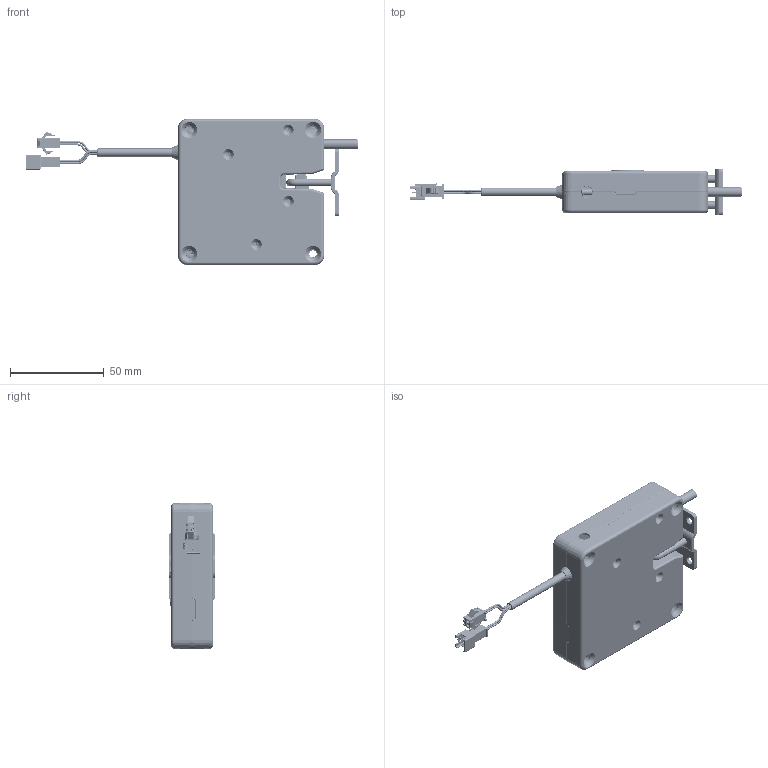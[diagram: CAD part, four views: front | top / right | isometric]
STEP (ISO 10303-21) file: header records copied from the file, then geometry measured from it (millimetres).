
FILE_DESCRIPTION((''),'2;1');
FILE_NAME('SM-8080X-006_ASM','2024-05-06T14:05:43',('PRIME'),(''),'CREO PARAMETRIC BY PTC INC, 2023073','CREO PARAMETRIC BY PTC INC, 2023073','');
FILE_SCHEMA(('CONFIG_CONTROL_DESIGN'));
Products named in the file (10): SM-8080X-006-00; SM-8080X-006-0200; _SM-8080X-00600; _SM-8080X-0060002; SM-8080X-006-000; _SM-8080X-0060004; 1-SM-8080X-006-00200; 8080X-00; SM-8080X-006_ASM
Assembly tree (9 placements, depth 2):
  SM-8080X-006_ASM
    SM-8080X-006-00
    SM-8080X-006-0200
    _SM-8080X-00600
    _SM-8080X-0060002
    SM-8080X-006-000
    _SM-8080X-0060004
    1-SM-8080X-006-00200
    8080X-00
    8080X-00
Bounding box: 177 x 25 x 78.04 mm (x, y, z)
Volume: 46641 mm3; surface area: 63096.9 mm2
Topology: 24 solids, 24 shells, 4183 faces, 10691 edges, 6308 vertices
Faces by surface type: cylinder 1453, bspline 1156, plane 742, torus 502, cone 171, sphere 159
Entity records: 226230 total; most frequent: CARTESIAN_POINT 135054, ORIENTED_EDGE 20806, DIRECTION 16987, EDGE_CURVE 10403, AXIS2_PLACEMENT_3D 6548, VERTEX_POINT 6169, EDGE_LOOP 4172, FACE_OUTER_BOUND 4041
